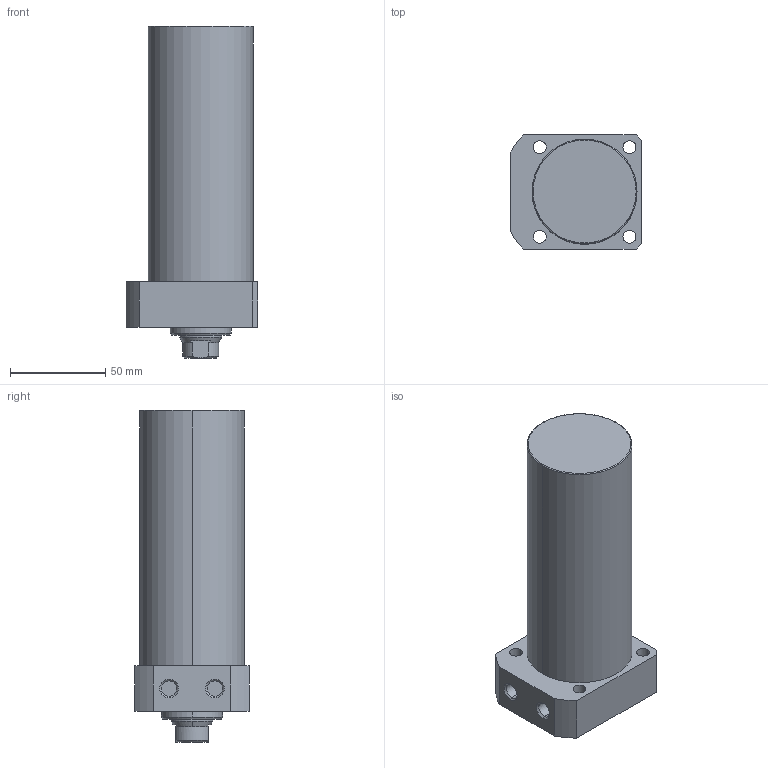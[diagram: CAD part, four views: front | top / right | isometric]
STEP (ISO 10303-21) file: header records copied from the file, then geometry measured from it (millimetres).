
FILE_DESCRIPTION (( 'STEP AP203' ), '1' );
FILE_NAME ('CLLR-055CA-105.STEP', '2019-12-17T11:29:54', ( '' ), ( '' ), 'SwSTEP 2.0', 'SolidWorks 2015', '' );
FILE_SCHEMA (( 'CONFIG_CONTROL_DESIGN' ));
Length unit declared in the file: millimetre
Products named in the file (1): CLLR-055CA-105
Bounding box: 69 x 60 x 174 mm (x, y, z)
Volume: 415988.6 mm3; surface area: 41440.5 mm2
Topology: 1 solids, 1 shells, 65 faces, 150 edges, 93 vertices
Faces by surface type: cylinder 29, plane 19, cone 15, torus 2
Entity records: 1959 total; most frequent: DIRECTION 348, CARTESIAN_POINT 347, ORIENTED_EDGE 296, EDGE_CURVE 148, AXIS2_PLACEMENT_3D 142, VERTEX_POINT 93, EDGE_LOOP 81, CIRCLE 76
